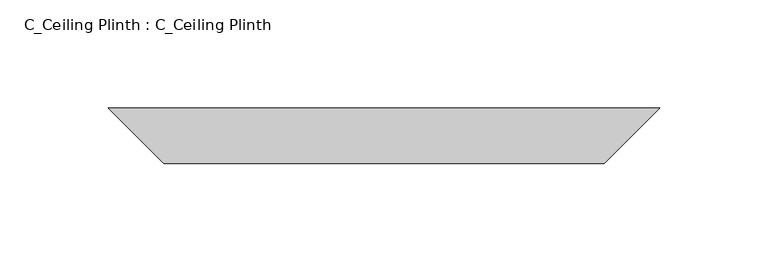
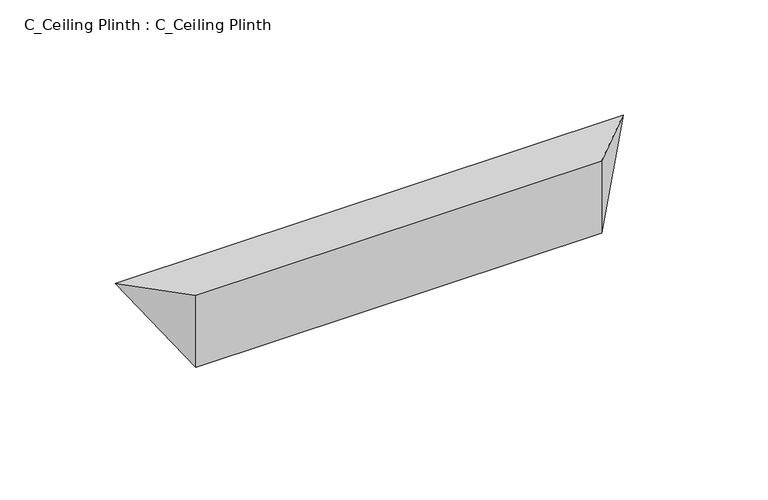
"""IFC4 building model written with IfcOpenShell, lengths in millimetres: proxy geometry, C_Ceiling Plinth : C_Ceiling Plinth."""

from ifc_helpers import new_model, si_unit, origin, place, context, project, spatial, faceted_brep, source, transform, mapped, element, save


def c_ceiling_plinth_c_ceiling_plinth_1bd93db3(model_context):
    return source(origin(), model_context, "Body", "Brep", [
        faceted_brep([(203.2, 0.0, 0.0), (0.0, 0.0, 0.0), (0.0, 0.0, -38.1), (203.2, 0.0, -38.1), (228.6, 25.4, 0.0), (-25.4, 25.4, 0.0)], [[[0, 1, 2, 3]], [[4, 5, 1, 0]], [[3, 2, 5, 4]], [[3, 4, 0]], [[1, 5, 2]]]),
    ])


if __name__ == "__main__":
    model = new_model("IFC4")
    model_context = context("Model", 3, world=origin())
    ifc_project = project(units=[si_unit("LENGTHUNIT", "METRE", prefix="MILLI")], contexts=[model_context])
    site = spatial("IfcSite", under=ifc_project)
    building = spatial("IfcBuilding", under=site)
    placement = place(None, origin())
    c_ceiling_plinth_c_ceiling_plinth_shape = c_ceiling_plinth_c_ceiling_plinth_1bd93db3(model_context)
    element("IfcBuildingElementProxy", 1, Name="C_Ceiling Plinth : C_Ceiling Plinth", ObjectType="C_Ceiling Plinth : C_Ceiling Plinth", at=placement, inside=building, context=model_context, shape_type="MappedRepresentation", body=[
        mapped(c_ceiling_plinth_c_ceiling_plinth_shape, transform((0.0, 0.0, 0.0), x_axis=(1.0, 0.0, 0.0), y_axis=(0.0, 1.0, 0.0), z_axis=(0.0, 0.0, 1.0))),
    ])
    save(model, "model.ifc")
